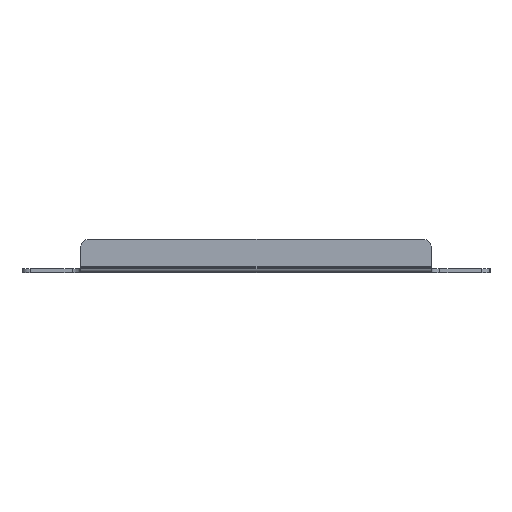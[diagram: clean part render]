
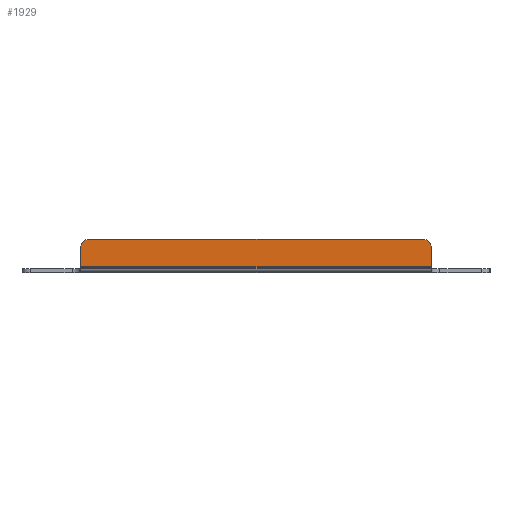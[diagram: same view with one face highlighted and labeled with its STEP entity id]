
A CAD part, front view. The second image highlights one B-rep face of the part: STEP entity #1929.
In plain terms, the highlighted planar face has unit normal (0, -1, 0).
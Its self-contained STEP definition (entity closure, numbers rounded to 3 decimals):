
#26 = CARTESIAN_POINT ( 'NONE',  ( 100., -1017.5, 15. ) ) ;
#34 = LINE ( 'NONE', #1416, #1082 ) ;
#134 = AXIS2_PLACEMENT_3D ( 'NONE', #3070, #3056, #3050 ) ;
#237 = EDGE_CURVE ( 'NONE', #2590, #1101, #953, .T. ) ;
#244 = EDGE_CURVE ( 'NONE', #1659, #2201, #2211, .T. ) ;
#259 = VECTOR ( 'NONE', #1907, 1000. ) ;
#303 = AXIS2_PLACEMENT_3D ( 'NONE', #26, #3131, #3121 ) ;
#397 = LINE ( 'NONE', #640, #1646 ) ;
#412 = EDGE_LOOP ( 'NONE', ( #1812, #2881, #1560, #1745, #1353, #2988 ) ) ;
#419 = DIRECTION ( 'NONE',  ( -1., 0., 0. ) ) ;
#552 = VERTEX_POINT ( 'NONE', #1617 ) ;
#640 = CARTESIAN_POINT ( 'NONE',  ( -105., -1017.5, 2.5 ) ) ;
#724 = CARTESIAN_POINT ( 'NONE',  ( 100., -1017.5, 20. ) ) ;
#929 = EDGE_CURVE ( 'NONE', #2201, #1992, #397, .T. ) ;
#953 = CIRCLE ( 'NONE', #303, 5. ) ;
#1031 = CARTESIAN_POINT ( 'NONE',  ( -105., -1017.5, 2.5 ) ) ;
#1082 = VECTOR ( 'NONE', #419, 1000. ) ;
#1101 = VERTEX_POINT ( 'NONE', #724 ) ;
#1170 = DIRECTION ( 'NONE',  ( 0., 0., -1. ) ) ;
#1193 = CARTESIAN_POINT ( 'NONE',  ( 105., -1017.5, 3. ) ) ;
#1282 = DIRECTION ( 'NONE',  ( 0., 0., 1. ) ) ;
#1353 = ORIENTED_EDGE ( 'NONE', *, *, #2178, .T. ) ;
#1416 = CARTESIAN_POINT ( 'NONE',  ( 122.678, -1017.5, 20. ) ) ;
#1560 = ORIENTED_EDGE ( 'NONE', *, *, #1633, .F. ) ;
#1604 = LINE ( 'NONE', #2322, #2688 ) ;
#1610 = AXIS2_PLACEMENT_3D ( 'NONE', #1031, #2676, #1282 ) ;
#1617 = CARTESIAN_POINT ( 'NONE',  ( 105., -1017.5, 3. ) ) ;
#1633 = EDGE_CURVE ( 'NONE', #2590, #552, #1604, .T. ) ;
#1646 = VECTOR ( 'NONE', #2781, 1000. ) ;
#1659 = VERTEX_POINT ( 'NONE', #3053 ) ;
#1745 = ORIENTED_EDGE ( 'NONE', *, *, #237, .T. ) ;
#1812 = ORIENTED_EDGE ( 'NONE', *, *, #929, .T. ) ;
#1907 = DIRECTION ( 'NONE',  ( 1., 0., 0. ) ) ;
#1929 = ADVANCED_FACE ( 'NONE', ( #2571 ), #2197, .F. ) ;
#1992 = VERTEX_POINT ( 'NONE', #2952 ) ;
#2178 = EDGE_CURVE ( 'NONE', #1101, #1659, #34, .T. ) ;
#2197 = PLANE ( 'NONE',  #1610 ) ;
#2201 = VERTEX_POINT ( 'NONE', #3076 ) ;
#2211 = CIRCLE ( 'NONE', #134, 5. ) ;
#2322 = CARTESIAN_POINT ( 'NONE',  ( 105., -1017.5, 2.5 ) ) ;
#2571 = FACE_OUTER_BOUND ( 'NONE', #412, .T. ) ;
#2590 = VERTEX_POINT ( 'NONE', #2981 ) ;
#2676 = DIRECTION ( 'NONE',  ( 0., 1., 0. ) ) ;
#2688 = VECTOR ( 'NONE', #1170, 1000. ) ;
#2775 = EDGE_CURVE ( 'NONE', #1992, #552, #2811, .T. ) ;
#2781 = DIRECTION ( 'NONE',  ( 0., 0., -1. ) ) ;
#2811 = LINE ( 'NONE', #1193, #259 ) ;
#2881 = ORIENTED_EDGE ( 'NONE', *, *, #2775, .T. ) ;
#2952 = CARTESIAN_POINT ( 'NONE',  ( -105., -1017.5, 3. ) ) ;
#2981 = CARTESIAN_POINT ( 'NONE',  ( 105., -1017.5, 15. ) ) ;
#2988 = ORIENTED_EDGE ( 'NONE', *, *, #244, .T. ) ;
#3050 = DIRECTION ( 'NONE',  ( 0., 0., 1. ) ) ;
#3053 = CARTESIAN_POINT ( 'NONE',  ( -100., -1017.5, 20. ) ) ;
#3056 = DIRECTION ( 'NONE',  ( 0., -1., 0. ) ) ;
#3070 = CARTESIAN_POINT ( 'NONE',  ( -100., -1017.5, 15. ) ) ;
#3076 = CARTESIAN_POINT ( 'NONE',  ( -105., -1017.5, 15. ) ) ;
#3121 = DIRECTION ( 'NONE',  ( 0., 0., 1. ) ) ;
#3131 = DIRECTION ( 'NONE',  ( 0., -1., 0. ) ) ;
